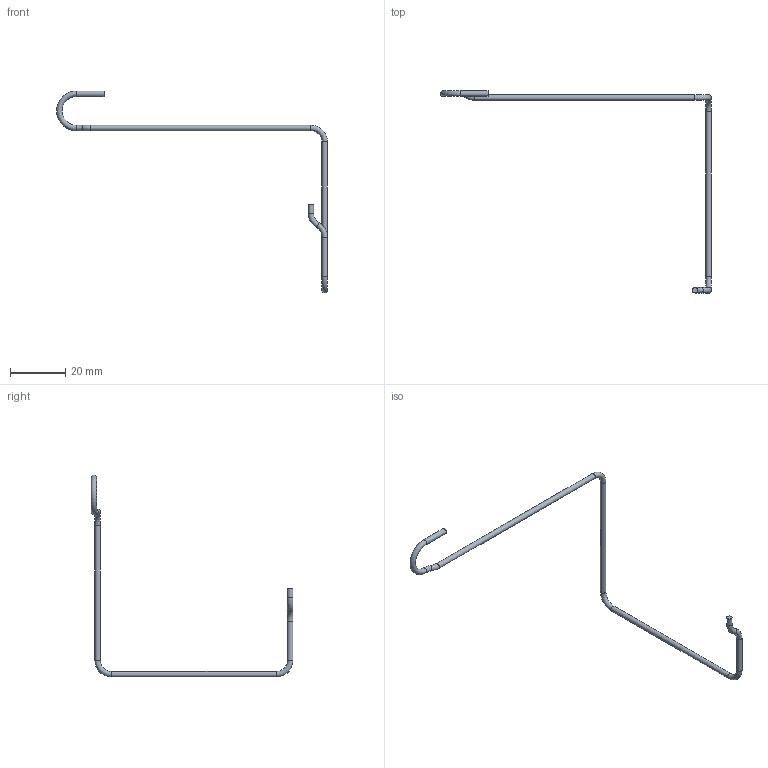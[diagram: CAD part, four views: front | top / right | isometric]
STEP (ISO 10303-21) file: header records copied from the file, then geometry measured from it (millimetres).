
FILE_DESCRIPTION(('Open CASCADE Model'),'2;1');
FILE_NAME('Open CASCADE Shape Model','2026-10-07T05:14:29',('Author'),( 'Open CASCADE'),'Open CASCADE STEP processor 7.7','Open CASCADE 7.7' ,'Unknown');
FILE_SCHEMA(('AUTOMOTIVE_DESIGN { 1 0 10303 214 1 1 1 1 }'));
Length unit declared in the file: millimetre
Products named in the file (1): Open CASCADE STEP translator 7.7 2
Bounding box: 98.2 x 73.19 x 73.2 mm (x, y, z)
Volume: 862.6 mm3; surface area: 1731.6 mm2
Topology: 1 solids, 1 shells, 16 faces, 29 edges, 15 vertices
Faces by surface type: torus 8, cylinder 6, plane 2
Full cylindrical faces by diameter (mm): 2 x6
Entity records: 752 total; most frequent: CARTESIAN_POINT 146, DIRECTION 117, ORIENTED_EDGE 58, PCURVE 58, DEFINITIONAL_REPRESENTATION 58, AXIS2_PLACEMENT_3D 40, LINE 35, VECTOR 35
